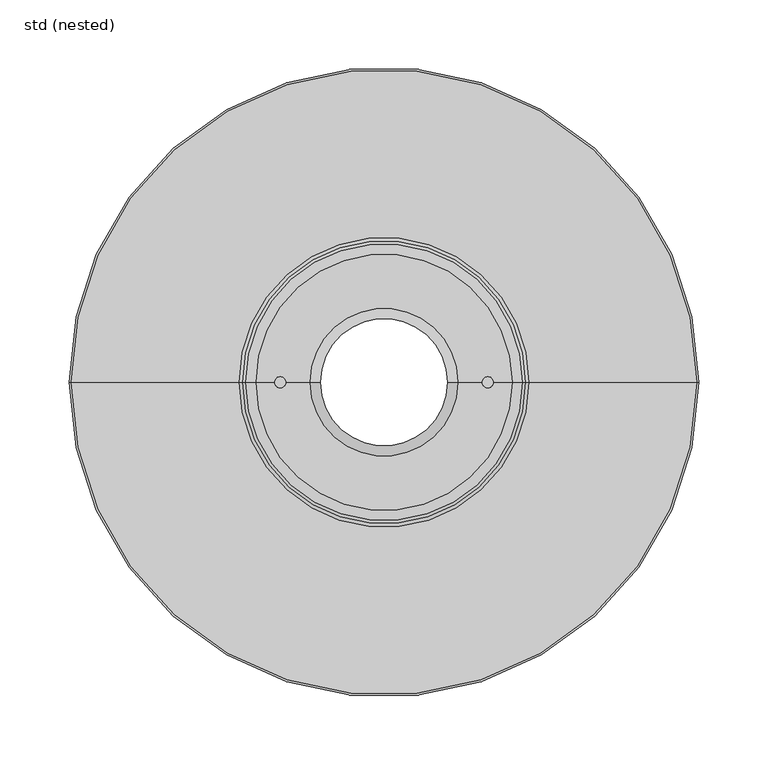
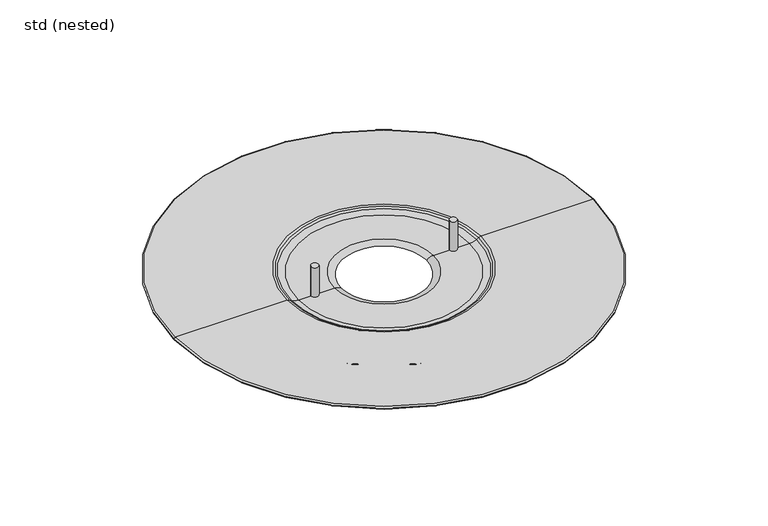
"""IFC4 building model written with IfcOpenShell, lengths in millimetres: sanitary terminal geometry, NLRS_50_PF_AV_Akasison Daktrechter XL75 HR PVC Base Outlet_Akatherm : std (nested)."""

from ifc_helpers import new_model, si_unit, point, frame, frame_2d, origin, place, context, project, spatial, polyline, circle_curve, ellipse_curve, trimmed, segment, composite_curve, outline, extrude, source, transform, mapped, element, save
from ifc_brep_helpers import plane_surface, revolved_surface, advanced_brep


def std_nested_79037b13(model_context):
    return source(origin(), model_context, "Body", "SolidModel", [
        extrude(outline(composite_curve([segment(trimmed(circle_curve(frame_2d((-75.0, 0.0)), 4.0), [point((-79.0, 0.0))], [point((-71.0, 0.0))], False, "CARTESIAN"), True, "CONTINUOUS"), segment(trimmed(circle_curve(frame_2d((-75.0, 0.0)), 4.0), [point((-71.0, 0.0))], [point((-79.0, 0.0))], False, "CARTESIAN"), True, "CONTINUOUS")], self_intersect=False)), frame((0.0, 0.0, -17.6), z_axis=(0.0, 0.0, 1.0), x_axis=(1.0, 0.0, 0.0)), (0.0, 0.0, 1.0), 47.0),
        extrude(outline(composite_curve([segment(trimmed(circle_curve(frame_2d((75.0, 0.0)), 4.0), [point((71.0, 0.0))], [point((79.0, 0.0))], False, "CARTESIAN"), True, "CONTINUOUS"), segment(trimmed(circle_curve(frame_2d((75.0, 0.0)), 4.0), [point((79.0, 0.0))], [point((71.0, 0.0))], False, "CARTESIAN"), True, "CONTINUOUS")], self_intersect=False)), frame((0.0, 0.0, -17.6), z_axis=(0.0, 0.0, 1.0), x_axis=(1.0, 0.0, 0.0)), (0.0, 0.0, 1.0), 47.0),
        advanced_brep(
        [(157.4281513, 0.0, -3.0), (-157.4281513, 0.0, -3.0), (-226.0, 0.0, -3.0), (226.0, 0.0, -3.0), (154.0952439, 0.0, -4.2728391), (-154.0952439, 0.0, -4.2728391), (149.5390076, 0.0, -7.0119196), (-149.5390076, 0.0, -7.0119196), (46.0557576, 0.0, -7.0119196), (-46.0557576, 0.0, -7.0119196), (53.275, 0.0, -3.9316406), (-53.275, 0.0, -3.9316406), (92.5, 0.0, -3.9316406), (-92.5, 0.0, -3.9316406), (99.9641016, 0.0, -1.9316406), (-99.9641016, 0.0, -1.9316406), (102.1495473, 0.0, -0.669873), (-102.1495473, 0.0, -0.669873), (104.6495473, 0.0, 0.0), (-104.6495473, 0.0, 0.0), (226.0, 0.0, 0.0), (-226.0, 0.0, 0.0), (227.5, 0.0, -1.5), (-227.5, 0.0, -1.5)],
        [
            (0, 1, circle_curve(frame((0.0, 0.0, -3.0), z_axis=(0.0, 0.0, 1.0), x_axis=(-1.0, 0.0, 0.0)), 157.4281513)),
            (1, 2),
            (2, 3, circle_curve(frame((0.0, 0.0, -3.0), z_axis=(0.0, 0.0, -1.0), x_axis=(-1.0, 0.0, 0.0)), 226.0)),
            (3, 0),
            (1, 0, circle_curve(frame((0.0, 0.0, -3.0), z_axis=(0.0, 0.0, 1.0), x_axis=(-1.0, 0.0, 0.0)), 157.4281513)),
            (3, 2, circle_curve(frame((0.0, 0.0, -3.0), z_axis=(0.0, 0.0, -1.0), x_axis=(-1.0, 0.0, 0.0)), 226.0)),
            (4, 5, circle_curve(frame((0.0, 0.0, -4.2728391), z_axis=(0.0, 0.0, 1.0), x_axis=(-1.0, 0.0, 0.0)), 154.0952439)),
            (5, 1, circle_curve(frame((-157.4281513, 0.0, -8.0), z_axis=(0.0, -1.0, 0.0), x_axis=(1.0, 0.0, 0.0)), 5.0)),
            (0, 4, circle_curve(frame((157.4281513, 0.0, -8.0), z_axis=(0.0, -1.0, 0.0), x_axis=(-1.0, 0.0, 0.0)), 5.0)),
            (5, 4, circle_curve(frame((0.0, 0.0, -4.2728391), z_axis=(0.0, 0.0, 1.0), x_axis=(-1.0, 0.0, 0.0)), 154.0952439)),
            (6, 7, circle_curve(frame((0.0, 0.0, -7.0119196), z_axis=(0.0, 0.0, 1.0), x_axis=(-1.0, 0.0, 0.0)), 149.5390076)),
            (7, 5, circle_curve(frame((-149.5390076, 0.0, -1.8529163), z_axis=(0.0, 1.0, 0.0), x_axis=(1.0, 0.0, 0.0)), 5.1590034)),
            (4, 6, circle_curve(frame((149.5390076, 0.0, -1.8529163), z_axis=(0.0, 1.0, 0.0), x_axis=(-1.0, 0.0, 0.0)), 5.1590034)),
            (7, 6, circle_curve(frame((0.0, 0.0, -7.0119196), z_axis=(0.0, 0.0, 1.0), x_axis=(-1.0, 0.0, 0.0)), 149.5390076)),
            (8, 9, circle_curve(frame((0.0, 0.0, -7.0119196), z_axis=(0.0, 0.0, 1.0), x_axis=(-1.0, 0.0, 0.0)), 46.0557576)),
            (9, 7),
            (6, 8),
            (9, 8, circle_curve(frame((0.0, 0.0, -7.0119196), z_axis=(0.0, 0.0, 1.0), x_axis=(-1.0, 0.0, 0.0)), 46.0557576)),
            (10, 11, circle_curve(frame((0.0, 0.0, -3.9316406), z_axis=(0.0, 0.0, 1.0), x_axis=(-1.0, 0.0, 0.0)), 53.275)),
            (11, 9, circle_curve(frame((-53.275, 0.0, -13.9316406), z_axis=(0.0, 1.0, 0.0), x_axis=(1.0, 0.0, 0.0)), 10.0)),
            (8, 10, circle_curve(frame((53.275, 0.0, -13.9316406), z_axis=(0.0, 1.0, 0.0), x_axis=(-1.0, 0.0, 0.0)), 10.0)),
            (11, 10, circle_curve(frame((0.0, 0.0, -3.9316406), z_axis=(0.0, 0.0, 1.0), x_axis=(-1.0, 0.0, 0.0)), 53.275)),
            (12, 13, circle_curve(frame((0.0, 0.0, -3.9316406), z_axis=(0.0, 0.0, 1.0), x_axis=(-1.0, 0.0, 0.0)), 92.5)),
            (13, 11),
            (10, 12),
            (13, 12, circle_curve(frame((0.0, 0.0, -3.9316406), z_axis=(0.0, 0.0, 1.0), x_axis=(-1.0, 0.0, 0.0)), 92.5)),
            (14, 15, circle_curve(frame((0.0, 0.0, -1.9316406), z_axis=(0.0, 0.0, 1.0), x_axis=(-1.0, 0.0, 0.0)), 99.9641016)),
            (15, 13, circle_curve(frame((-92.5, 0.0, 10.9965626), z_axis=(0.0, -1.0, 0.0), x_axis=(1.0, 0.0, 0.0)), 14.9282032)),
            (12, 14, circle_curve(frame((92.5, 0.0, 10.9965626), z_axis=(0.0, -1.0, 0.0), x_axis=(-1.0, 0.0, 0.0)), 14.9282032)),
            (15, 14, circle_curve(frame((0.0, 0.0, -1.9316406), z_axis=(0.0, 0.0, 1.0), x_axis=(-1.0, 0.0, 0.0)), 99.9641016)),
            (16, 17, circle_curve(frame((0.0, 0.0, -0.669873), z_axis=(0.0, 0.0, 1.0), x_axis=(-1.0, 0.0, 0.0)), 102.1495473)),
            (17, 15),
            (14, 16),
            (17, 16, circle_curve(frame((0.0, 0.0, -0.669873), z_axis=(0.0, 0.0, 1.0), x_axis=(-1.0, 0.0, 0.0)), 102.1495473)),
            (18, 19, circle_curve(frame((0.0, 0.0, 0.0), z_axis=(0.0, 0.0, 1.0), x_axis=(-1.0, 0.0, 0.0)), 104.6495473)),
            (19, 17, circle_curve(frame((-104.6495473, 0.0, -5.0), z_axis=(0.0, 1.0, 0.0), x_axis=(1.0, 0.0, 0.0)), 5.0)),
            (16, 18, circle_curve(frame((104.6495473, 0.0, -5.0), z_axis=(0.0, 1.0, 0.0), x_axis=(-1.0, 0.0, 0.0)), 5.0)),
            (19, 18, circle_curve(frame((0.0, 0.0, 0.0), z_axis=(0.0, 0.0, 1.0), x_axis=(-1.0, 0.0, 0.0)), 104.6495473)),
            (20, 21, circle_curve(frame((0.0, 0.0, 0.0), z_axis=(0.0, 0.0, 1.0), x_axis=(-1.0, 0.0, 0.0)), 226.0)),
            (21, 19),
            (18, 20),
            (21, 20, circle_curve(frame((0.0, 0.0, 0.0), z_axis=(0.0, 0.0, 1.0), x_axis=(-1.0, 0.0, 0.0)), 226.0)),
            (22, 23, circle_curve(frame((0.0, 0.0, -1.5), z_axis=(0.0, 0.0, 1.0), x_axis=(-1.0, 0.0, 0.0)), 227.5)),
            (23, 21, circle_curve(frame((-226.0, 0.0, -1.5), z_axis=(0.0, 1.0, 0.0), x_axis=(1.0, 0.0, 0.0)), 1.5)),
            (20, 22, circle_curve(frame((226.0, 0.0, -1.5), z_axis=(0.0, 1.0, 0.0), x_axis=(-1.0, 0.0, 0.0)), 1.5)),
            (23, 22, circle_curve(frame((0.0, 0.0, -1.5), z_axis=(0.0, 0.0, 1.0), x_axis=(-1.0, 0.0, 0.0)), 227.5)),
            (2, 23, circle_curve(frame((-226.0, 0.0, -1.5), z_axis=(0.0, 1.0, 0.0), x_axis=(1.0, 0.0, 0.0)), 1.5)),
            (22, 3, circle_curve(frame((226.0, 0.0, -1.5), z_axis=(0.0, 1.0, 0.0), x_axis=(-1.0, 0.0, 0.0)), 1.5)),
        ],
        [
            plane_surface(frame((0.0, 0.0, -3.0), z_axis=(0.0, 0.0, -1.0), x_axis=(-1.0, 0.0, 0.0))),
            revolved_surface(trimmed(ellipse_curve(frame((-157.4281513, 0.0, -8.0), z_axis=(0.0, 1.0, 0.0), x_axis=(1.0, 0.0, 0.0)), 5.0, 5.0), [point((-157.4281513, 0.0, -3.0))], [point((-154.0952439, 0.0, -4.2728391))], True, "CARTESIAN"), (0.0, 0.0, 70.0), (0.0, 0.0, -1.0)),
            revolved_surface(trimmed(ellipse_curve(frame((-149.5390076, 0.0, -1.8529163), z_axis=(0.0, -1.0, 0.0), x_axis=(1.0, 0.0, 0.0)), 5.1590034, 5.1590034), [point((-154.0952439, 0.0, -4.2728391))], [point((-149.5390076, 0.0, -7.0119196))], True, "CARTESIAN"), (0.0, 0.0, 70.0), (0.0, 0.0, -1.0)),
            plane_surface(frame((0.0, 0.0, -7.0119196), z_axis=(0.0, 0.0, -1.0), x_axis=(-1.0, 0.0, 0.0))),
            revolved_surface(trimmed(ellipse_curve(frame((-53.275, 0.0, -13.9316406), z_axis=(0.0, -1.0, 0.0), x_axis=(1.0, 0.0, 0.0)), 10.0, 10.0), [point((-46.0557576, 0.0, -7.0119196))], [point((-53.275, 0.0, -3.9316406))], True, "CARTESIAN"), (0.0, 0.0, 70.0), (0.0, 0.0, -1.0)),
            plane_surface(frame((0.0, 0.0, -3.9316406), z_axis=(0.0, 0.0, 1.0), x_axis=(-1.0, 0.0, 0.0))),
            revolved_surface(trimmed(ellipse_curve(frame((-92.5, 0.0, 10.9965626), z_axis=(0.0, 1.0, 0.0), x_axis=(1.0, 0.0, 0.0)), 14.9282032, 14.9282032), [point((-92.5, 0.0, -3.9316406))], [point((-99.9641016, 0.0, -1.9316406))], True, "CARTESIAN"), (0.0, 0.0, 70.0), (0.0, 0.0, -1.0)),
            revolved_surface(polyline([(-99.9641016, 0.0, -1.9316406), (-102.1495473, 0.0, -0.669873)]), (0.0, 0.0, 70.0), (0.0, 0.0, -1.0)),
            revolved_surface(trimmed(ellipse_curve(frame((-104.6495473, 0.0, -5.0), z_axis=(0.0, -1.0, 0.0), x_axis=(1.0, 0.0, 0.0)), 5.0, 5.0), [point((-102.1495473, 0.0, -0.669873))], [point((-104.6495473, 0.0, 0.0))], True, "CARTESIAN"), (0.0, 0.0, 70.0), (0.0, 0.0, -1.0)),
            plane_surface(frame((0.0, 0.0, 0.0), z_axis=(0.0, 0.0, 1.0), x_axis=(-1.0, 0.0, 0.0))),
            revolved_surface(trimmed(ellipse_curve(frame((-226.0, 0.0, -1.5), z_axis=(0.0, -1.0, 0.0), x_axis=(1.0, 0.0, 0.0)), 1.5, 1.5), [point((-226.0, 0.0, 0.0))], [point((-227.5, 0.0, -1.5))], True, "CARTESIAN"), (0.0, 0.0, 70.0), (0.0, 0.0, -1.0)),
            revolved_surface(trimmed(ellipse_curve(frame((-226.0, 0.0, -1.5), z_axis=(0.0, -1.0, 0.0), x_axis=(1.0, 0.0, 0.0)), 1.5, 1.5), [point((-227.5, 0.0, -1.5))], [point((-226.0, 0.0, -3.0))], True, "CARTESIAN"), (0.0, 0.0, 70.0), (0.0, 0.0, -1.0)),
        ],
        [
            (0, [[1, 2, 3, 4]]),
            (0, [[5, -4, 6, -2]]),
            (1, [[7, 8, -1, 9]]),
            (1, [[10, -9, -5, -8]]),
            (2, [[11, 12, -7, 13]]),
            (2, [[14, -13, -10, -12]]),
            (3, [[15, 16, -11, 17]]),
            (3, [[18, -17, -14, -16]]),
            (4, [[19, 20, -15, 21]]),
            (4, [[22, -21, -18, -20]]),
            (5, [[23, 24, -19, 25]]),
            (5, [[26, -25, -22, -24]]),
            (6, [[27, 28, -23, 29]]),
            (6, [[30, -29, -26, -28]]),
            (7, [[31, 32, -27, 33]]),
            (7, [[34, -33, -30, -32]]),
            (8, [[35, 36, -31, 37]]),
            (8, [[38, -37, -34, -36]]),
            (9, [[39, 40, -35, 41]]),
            (9, [[42, -41, -38, -40]]),
            (10, [[43, 44, -39, 45]]),
            (10, [[46, -45, -42, -44]]),
            (11, [[-3, 47, -43, 48]]),
            (11, [[-6, -48, -46, -47]]),
        ],
    ),
    ])


if __name__ == "__main__":
    model = new_model("IFC4")
    model_context = context("Model", 3, world=origin())
    ifc_project = project(units=[si_unit("LENGTHUNIT", "METRE", prefix="MILLI")], contexts=[model_context])
    site = spatial("IfcSite", under=ifc_project)
    building = spatial("IfcBuilding", under=site)
    placement = place(None, origin())
    std_nested_shape = std_nested_79037b13(model_context)
    element("IfcSanitaryTerminal", 1, ObjectType="NLRS_50_PF_AV_Akasison Daktrechter XL75 HR PVC Base Outlet_Akatherm : std (nested)", at=placement, inside=building, context=model_context, shape_type="MappedRepresentation", body=[
        mapped(std_nested_shape, transform((0.0, 0.0, 0.0), x_axis=(1.0, 0.0, 0.0), y_axis=(0.0, 1.0, 0.0), z_axis=(0.0, 0.0, 1.0))),
    ])
    save(model, "model.ifc")
